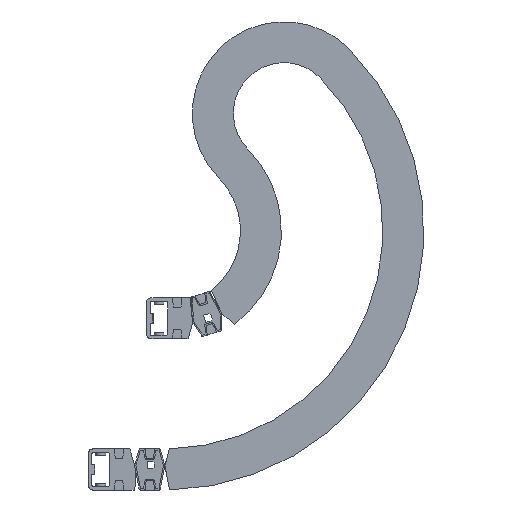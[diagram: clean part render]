
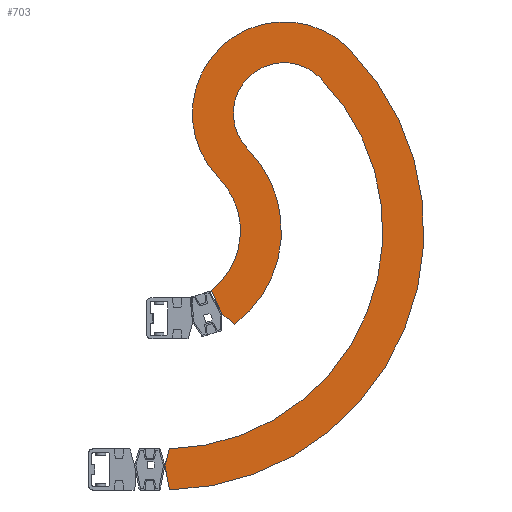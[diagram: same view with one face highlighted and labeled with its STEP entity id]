
A CAD part, front view. The second image highlights one B-rep face of the part: STEP entity #703.
In plain terms, the highlighted planar face has unit normal (0, -1, 0).
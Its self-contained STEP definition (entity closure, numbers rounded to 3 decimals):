
#703 = ADVANCED_FACE( '', ( #1734 ), #1735, .F. );
#1734 = FACE_OUTER_BOUND( '', #3160, .T. );
#1735 = PLANE( '', #3161 );
#3160 = EDGE_LOOP( '', ( #4970, #4971, #4972, #4973, #4974, #4975, #4976, #4977, #4978, #4979 ) );
#3161 = AXIS2_PLACEMENT_3D( '', #4980, #4981, #4982 );
#4970 = ORIENTED_EDGE( '', *, *, #9236, .F. );
#4971 = ORIENTED_EDGE( '', *, *, #9237, .F. );
#4972 = ORIENTED_EDGE( '', *, *, #9238, .F. );
#4973 = ORIENTED_EDGE( '', *, *, #9239, .T. );
#4974 = ORIENTED_EDGE( '', *, *, #9240, .F. );
#4975 = ORIENTED_EDGE( '', *, *, #9241, .F. );
#4976 = ORIENTED_EDGE( '', *, *, #9242, .F. );
#4977 = ORIENTED_EDGE( '', *, *, #9183, .T. );
#4978 = ORIENTED_EDGE( '', *, *, #9243, .T. );
#4979 = ORIENTED_EDGE( '', *, *, #9244, .F. );
#4980 = CARTESIAN_POINT( '', ( 0., -49.5, 0. ) );
#4981 = DIRECTION( '', ( 0., 1., 0. ) );
#4982 = DIRECTION( '', ( 0., 0., 1. ) );
#9183 = EDGE_CURVE( '', #11232, #11233, #11234, .T. );
#9236 = EDGE_CURVE( '', #11320, #11321, #11322, .T. );
#9237 = EDGE_CURVE( '', #11323, #11320, #11324, .T. );
#9238 = EDGE_CURVE( '', #11325, #11323, #11326, .T. );
#9239 = EDGE_CURVE( '', #11325, #11327, #11328, .T. );
#9240 = EDGE_CURVE( '', #11329, #11327, #11330, .T. );
#9241 = EDGE_CURVE( '', #11331, #11329, #11332, .T. );
#9242 = EDGE_CURVE( '', #11232, #11331, #11333, .T. );
#9243 = EDGE_CURVE( '', #11233, #11334, #11335, .T. );
#9244 = EDGE_CURVE( '', #11321, #11334, #11336, .T. );
#11232 = VERTEX_POINT( '', #14130 );
#11233 = VERTEX_POINT( '', #14131 );
#11234 = CIRCLE( '', #14132, 47. );
#11320 = VERTEX_POINT( '', #14255 );
#11321 = VERTEX_POINT( '', #14256 );
#11322 = LINE( '', #14257, #14258 );
#11323 = VERTEX_POINT( '', #14259 );
#11324 = CIRCLE( '', #14260, 240. );
#11325 = VERTEX_POINT( '', #14261 );
#11326 = CIRCLE( '', #14262, 85. );
#11327 = VERTEX_POINT( '', #14263 );
#11328 = CIRCLE( '', #14264, 70. );
#11329 = VERTEX_POINT( '', #14265 );
#11330 = LINE( '', #14266, #14267 );
#11331 = VERTEX_POINT( '', #14268 );
#11332 = LINE( '', #14269, #14270 );
#11333 = CIRCLE( '', #14271, 108. );
#11334 = VERTEX_POINT( '', #14272 );
#11335 = CIRCLE( '', #14273, 202. );
#11336 = LINE( '', #14274, #14275 );
#14130 = CARTESIAN_POINT( '', ( 76.97, -49.5, 75.76 ) );
#14131 = CARTESIAN_POINT( '', ( 143.963, -49.5, 141.7 ) );
#14132 = AXIS2_PLACEMENT_3D( '', #17454, #17455, #17456 );
#14255 = CARTESIAN_POINT( '', ( 4.374, -49.5, -239.96 ) );
#14256 = CARTESIAN_POINT( '', ( 0., -49.5, -217. ) );
#14257 = CARTESIAN_POINT( '', ( 4.374, -49.5, -239.96 ) );
#14258 = VECTOR( '', #17509, 1000. );
#14259 = CARTESIAN_POINT( '', ( 171.045, -49.5, 168.356 ) );
#14260 = AXIS2_PLACEMENT_3D( '', #17510, #17511, #17512 );
#14261 = CARTESIAN_POINT( '', ( 49.888, -49.5, 49.104 ) );
#14262 = AXIS2_PLACEMENT_3D( '', #17513, #17514, #17515 );
#14263 = CARTESIAN_POINT( '', ( 43.204, -49.5, -55.077 ) );
#14264 = AXIS2_PLACEMENT_3D( '', #17516, #17517, #17518 );
#14265 = CARTESIAN_POINT( '', ( 52.677, -49.5, -76.643 ) );
#14266 = CARTESIAN_POINT( '', ( 52.677, -49.5, -76.643 ) );
#14267 = VECTOR( '', #17519, 1000. );
#14268 = CARTESIAN_POINT( '', ( 64.714, -49.5, -86.465 ) );
#14269 = CARTESIAN_POINT( '', ( 64.714, -49.5, -86.465 ) );
#14270 = VECTOR( '', #17520, 1000. );
#14271 = AXIS2_PLACEMENT_3D( '', #17521, #17522, #17523 );
#14272 = CARTESIAN_POINT( '', ( 4.396, -49.5, -201.952 ) );
#14273 = AXIS2_PLACEMENT_3D( '', #17524, #17525, #17526 );
#14274 = CARTESIAN_POINT( '', ( 0., -49.5, -217. ) );
#14275 = VECTOR( '', #17527, 1000. );
#17454 = CARTESIAN_POINT( '', ( 110.466, -49.5, 108.73 ) );
#17455 = DIRECTION( '', ( 0., 1., 0. ) );
#17456 = DIRECTION( '', ( 1., 0., 0. ) );
#17509 = DIRECTION( '', ( -0.187, 0., 0.982 ) );
#17510 = CARTESIAN_POINT( '', ( 0., -49.5, 0. ) );
#17511 = DIRECTION( '', ( 0., 1., 0. ) );
#17512 = DIRECTION( '', ( 1., 0., 0. ) );
#17513 = CARTESIAN_POINT( '', ( 110.466, -49.5, 108.73 ) );
#17514 = DIRECTION( '', ( 0., 1., 0. ) );
#17515 = DIRECTION( '', ( 1., 0., 0. ) );
#17516 = CARTESIAN_POINT( '', ( 0., -49.5, 0. ) );
#17517 = DIRECTION( '', ( 0., 1., 0. ) );
#17518 = DIRECTION( '', ( 1., 0., 0. ) );
#17519 = DIRECTION( '', ( -0.402, 0., 0.916 ) );
#17520 = DIRECTION( '', ( -0.775, 0., 0.632 ) );
#17521 = CARTESIAN_POINT( '', ( 0., -49.5, 0. ) );
#17522 = DIRECTION( '', ( 0., 1., 0. ) );
#17523 = DIRECTION( '', ( 1., 0., 0. ) );
#17524 = CARTESIAN_POINT( '', ( 0., -49.5, 0. ) );
#17525 = DIRECTION( '', ( 0., 1., 0. ) );
#17526 = DIRECTION( '', ( 1., 0., 0. ) );
#17527 = DIRECTION( '', ( 0.28, 0., 0.96 ) );
